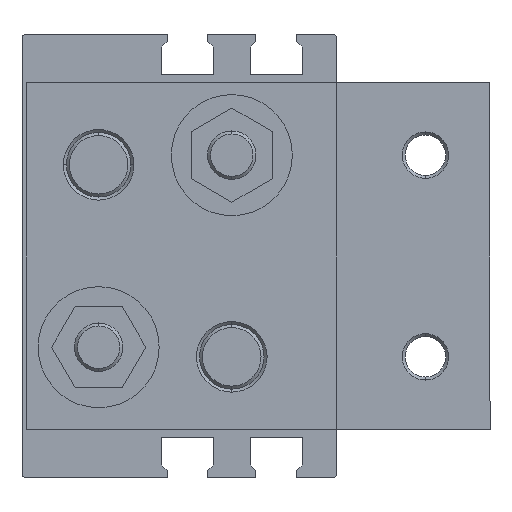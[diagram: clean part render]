
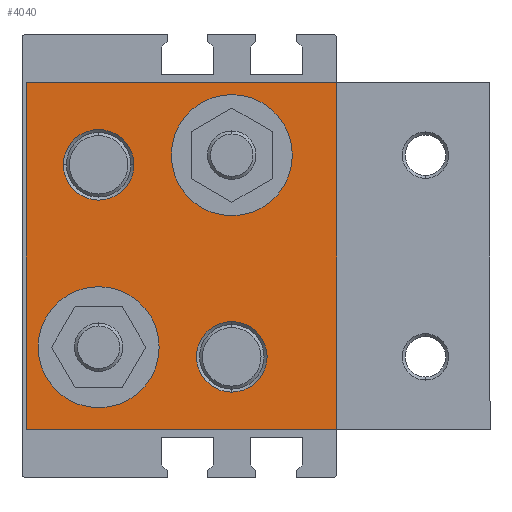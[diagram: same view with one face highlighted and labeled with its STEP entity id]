
A CAD part, left-side view. The second image highlights one B-rep face of the part: STEP entity #4040.
In plain terms, the highlighted planar face has unit normal (-1, 0, 0) as drawn and (1, 0, 0) by its records, which use the part's own axes.
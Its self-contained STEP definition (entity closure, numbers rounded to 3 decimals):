
#42 = VERTEX_POINT ( 'NONE', #6959 ) ;
#91 = CARTESIAN_POINT ( 'NONE',  ( 13., -9., -11.3 ) ) ;
#176 = DIRECTION ( 'NONE',  ( 0., 1., 0. ) ) ;
#232 = CARTESIAN_POINT ( 'NONE',  ( 13., -9., 11.3 ) ) ;
#291 = VERTEX_POINT ( 'NONE', #1749 ) ;
#324 = CARTESIAN_POINT ( 'NONE',  ( 13., -4.625, -11.3 ) ) ;
#375 = EDGE_CURVE ( 'NONE', #4793, #5966, #877, .T. ) ;
#557 = CARTESIAN_POINT ( 'NONE',  ( 13., -25.5, 12.5 ) ) ;
#593 = DIRECTION ( 'NONE',  ( 0., 0., -1. ) ) ;
#646 = ORIENTED_EDGE ( 'NONE', *, *, #6394, .F. ) ;
#694 = DIRECTION ( 'NONE',  ( 0., 1., 0. ) ) ;
#834 = DIRECTION ( 'NONE',  ( 0., 1., 0. ) ) ;
#877 = LINE ( 'NONE', #7497, #5645 ) ;
#895 = VERTEX_POINT ( 'NONE', #4065 ) ;
#1087 = DIRECTION ( 'NONE',  ( 0., 1., 0. ) ) ;
#1094 = DIRECTION ( 'NONE',  ( 1., 0., 0. ) ) ;
#1106 = DIRECTION ( 'NONE',  ( 1., 0., 0. ) ) ;
#1123 = FACE_BOUND ( 'NONE', #3494, .T. ) ;
#1143 = CARTESIAN_POINT ( 'NONE',  ( 13., -25.5, -12.5 ) ) ;
#1185 = DIRECTION ( 'NONE',  ( 0., 0., -1. ) ) ;
#1270 = EDGE_CURVE ( 'NONE', #4793, #6497, #7569, .T. ) ;
#1318 = FACE_OUTER_BOUND ( 'NONE', #4992, .T. ) ;
#1490 = CARTESIAN_POINT ( 'NONE',  ( 13., -18., -12.5 ) ) ;
#1749 = CARTESIAN_POINT ( 'NONE',  ( 13., -13.375, -11.3 ) ) ;
#1794 = VERTEX_POINT ( 'NONE', #324 ) ;
#1897 = CARTESIAN_POINT ( 'NONE',  ( 13., -9., -11.3 ) ) ;
#1903 = ORIENTED_EDGE ( 'NONE', *, *, #6078, .F. ) ;
#1919 = CARTESIAN_POINT ( 'NONE',  ( 13., -38.5, -21.5 ) ) ;
#1931 = AXIS2_PLACEMENT_3D ( 'NONE', #557, #4747, #1185 ) ;
#1994 = DIRECTION ( 'NONE',  ( 0., 0., 1. ) ) ;
#2018 = DIRECTION ( 'NONE',  ( -1., 0., 0. ) ) ;
#2067 = LINE ( 'NONE', #5391, #6659 ) ;
#2088 = EDGE_CURVE ( 'NONE', #1794, #291, #3229, .T. ) ;
#2125 = CARTESIAN_POINT ( 'NONE',  ( 13., -25.5, -12.5 ) ) ;
#2180 = ORIENTED_EDGE ( 'NONE', *, *, #2088, .F. ) ;
#2370 = EDGE_CURVE ( 'NONE', #6497, #2842, #6666, .T. ) ;
#2408 = PLANE ( 'NONE',  #6540 ) ;
#2431 = EDGE_LOOP ( 'NONE', ( #1903, #2663 ) ) ;
#2436 = CARTESIAN_POINT ( 'NONE',  ( 13., -38.5, 21.5 ) ) ;
#2546 = CARTESIAN_POINT ( 'NONE',  ( 13., -33., -12.5 ) ) ;
#2663 = ORIENTED_EDGE ( 'NONE', *, *, #3626, .F. ) ;
#2686 = DIRECTION ( 'NONE',  ( 0., 1., 0. ) ) ;
#2704 = FACE_BOUND ( 'NONE', #2431, .T. ) ;
#2706 = DIRECTION ( 'NONE',  ( 1., 0., 0. ) ) ;
#2711 = DIRECTION ( 'NONE',  ( 0., 1., 0. ) ) ;
#2737 = CARTESIAN_POINT ( 'NONE',  ( 13., -9., 11.3 ) ) ;
#2754 = EDGE_LOOP ( 'NONE', ( #646, #7318 ) ) ;
#2842 = VERTEX_POINT ( 'NONE', #7485 ) ;
#2991 = CARTESIAN_POINT ( 'NONE',  ( 13., 0., 21.5 ) ) ;
#3035 = AXIS2_PLACEMENT_3D ( 'NONE', #1143, #1106, #1087 ) ;
#3229 = CIRCLE ( 'NONE', #5702, 4.375 ) ;
#3232 = DIRECTION ( 'NONE',  ( 0., -1., 0. ) ) ;
#3296 = ORIENTED_EDGE ( 'NONE', *, *, #6575, .F. ) ;
#3389 = DIRECTION ( 'NONE',  ( 0., 0., 1. ) ) ;
#3494 = EDGE_LOOP ( 'NONE', ( #2180, #3296 ) ) ;
#3626 = EDGE_CURVE ( 'NONE', #5883, #5004, #7536, .T. ) ;
#3649 = VERTEX_POINT ( 'NONE', #2546 ) ;
#4040 = ADVANCED_FACE ( 'NONE', ( #1318, #2704, #5889, #4322, #1123 ), #2408, .F. ) ;
#4065 = CARTESIAN_POINT ( 'NONE',  ( 13., -25.5, 8.125 ) ) ;
#4072 = DIRECTION ( 'NONE',  ( 1., 0., 0. ) ) ;
#4176 = CARTESIAN_POINT ( 'NONE',  ( 13., -1.5, 11.3 ) ) ;
#4223 = CARTESIAN_POINT ( 'NONE',  ( 13., 0., 21.5 ) ) ;
#4252 = AXIS2_PLACEMENT_3D ( 'NONE', #91, #4296, #694 ) ;
#4296 = DIRECTION ( 'NONE',  ( 1., 0., 0. ) ) ;
#4322 = FACE_BOUND ( 'NONE', #2754, .T. ) ;
#4379 = EDGE_CURVE ( 'NONE', #3649, #6134, #6566, .T. ) ;
#4431 = DIRECTION ( 'NONE',  ( 1., 0., 0. ) ) ;
#4542 = ORIENTED_EDGE ( 'NONE', *, *, #2370, .T. ) ;
#4625 = ORIENTED_EDGE ( 'NONE', *, *, #5052, .T. ) ;
#4627 = VECTOR ( 'NONE', #3232, 1000. ) ;
#4668 = CARTESIAN_POINT ( 'NONE',  ( 13., -25.5, 12.5 ) ) ;
#4747 = DIRECTION ( 'NONE',  ( 1., 0., 0. ) ) ;
#4772 = AXIS2_PLACEMENT_3D ( 'NONE', #4668, #1094, #5277 ) ;
#4793 = VERTEX_POINT ( 'NONE', #5738 ) ;
#4988 = EDGE_CURVE ( 'NONE', #42, #895, #6844, .T. ) ;
#4992 = EDGE_LOOP ( 'NONE', ( #6814, #4542, #4625, #6896 ) ) ;
#5004 = VERTEX_POINT ( 'NONE', #4176 ) ;
#5052 = EDGE_CURVE ( 'NONE', #2842, #5966, #2067, .T. ) ;
#5117 = DIRECTION ( 'NONE',  ( 0., -1., 0. ) ) ;
#5139 = CIRCLE ( 'NONE', #6342, 7.5 ) ;
#5277 = DIRECTION ( 'NONE',  ( 0., 0., -1. ) ) ;
#5391 = CARTESIAN_POINT ( 'NONE',  ( 13., -38.5, 21.5 ) ) ;
#5543 = VECTOR ( 'NONE', #3389, 1000. ) ;
#5589 = CIRCLE ( 'NONE', #4772, 4.375 ) ;
#5645 = VECTOR ( 'NONE', #5117, 1000. ) ;
#5702 = AXIS2_PLACEMENT_3D ( 'NONE', #1897, #4072, #176 ) ;
#5717 = AXIS2_PLACEMENT_3D ( 'NONE', #232, #4431, #834 ) ;
#5738 = CARTESIAN_POINT ( 'NONE',  ( 13., 0., -21.5 ) ) ;
#5863 = CIRCLE ( 'NONE', #5717, 7.5 ) ;
#5883 = VERTEX_POINT ( 'NONE', #6610 ) ;
#5889 = FACE_BOUND ( 'NONE', #7299, .T. ) ;
#5958 = ORIENTED_EDGE ( 'NONE', *, *, #4379, .F. ) ;
#5966 = VERTEX_POINT ( 'NONE', #1919 ) ;
#6078 = EDGE_CURVE ( 'NONE', #5004, #5883, #5863, .T. ) ;
#6134 = VERTEX_POINT ( 'NONE', #1490 ) ;
#6293 = CIRCLE ( 'NONE', #4252, 4.375 ) ;
#6307 = DIRECTION ( 'NONE',  ( 1., 0., 0. ) ) ;
#6342 = AXIS2_PLACEMENT_3D ( 'NONE', #2125, #6307, #2711 ) ;
#6394 = EDGE_CURVE ( 'NONE', #895, #42, #5589, .T. ) ;
#6497 = VERTEX_POINT ( 'NONE', #4223 ) ;
#6540 = AXIS2_PLACEMENT_3D ( 'NONE', #2436, #2018, #1994 ) ;
#6566 = CIRCLE ( 'NONE', #3035, 7.5 ) ;
#6575 = EDGE_CURVE ( 'NONE', #291, #1794, #6293, .T. ) ;
#6610 = CARTESIAN_POINT ( 'NONE',  ( 13., -16.5, 11.3 ) ) ;
#6659 = VECTOR ( 'NONE', #593, 1000. ) ;
#6666 = LINE ( 'NONE', #2991, #4627 ) ;
#6814 = ORIENTED_EDGE ( 'NONE', *, *, #1270, .T. ) ;
#6844 = CIRCLE ( 'NONE', #1931, 4.375 ) ;
#6896 = ORIENTED_EDGE ( 'NONE', *, *, #375, .F. ) ;
#6959 = CARTESIAN_POINT ( 'NONE',  ( 13., -25.5, 16.875 ) ) ;
#7269 = EDGE_CURVE ( 'NONE', #6134, #3649, #5139, .T. ) ;
#7271 = AXIS2_PLACEMENT_3D ( 'NONE', #2737, #2706, #2686 ) ;
#7299 = EDGE_LOOP ( 'NONE', ( #7436, #5958 ) ) ;
#7318 = ORIENTED_EDGE ( 'NONE', *, *, #4988, .F. ) ;
#7436 = ORIENTED_EDGE ( 'NONE', *, *, #7269, .F. ) ;
#7485 = CARTESIAN_POINT ( 'NONE',  ( 13., -38.5, 21.5 ) ) ;
#7497 = CARTESIAN_POINT ( 'NONE',  ( 13., 0., -21.5 ) ) ;
#7536 = CIRCLE ( 'NONE', #7271, 7.5 ) ;
#7551 = CARTESIAN_POINT ( 'NONE',  ( 13., 0., 21.5 ) ) ;
#7569 = LINE ( 'NONE', #7551, #5543 ) ;
